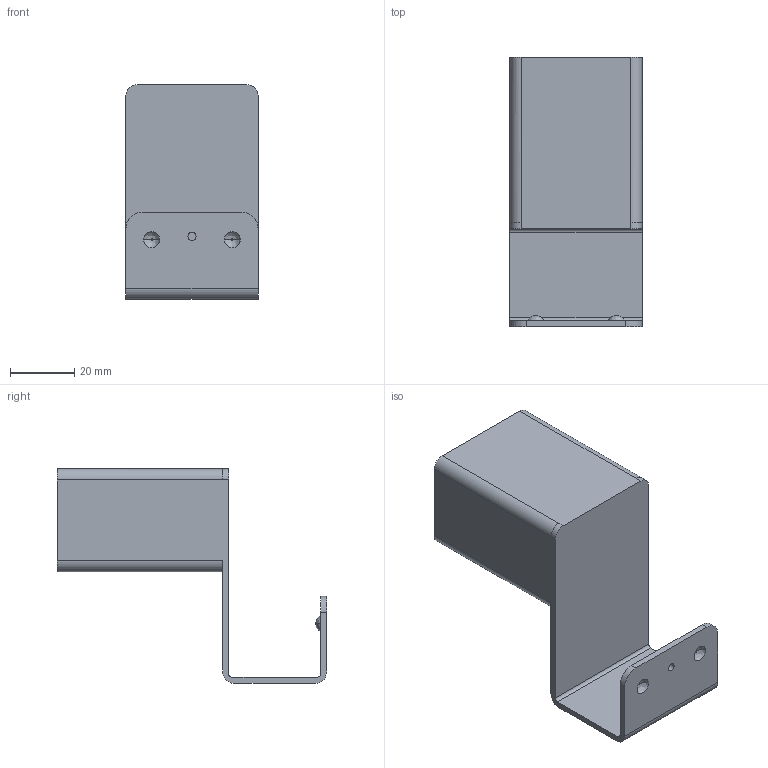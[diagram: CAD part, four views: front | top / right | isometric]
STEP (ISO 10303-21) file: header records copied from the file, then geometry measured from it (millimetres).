
FILE_DESCRIPTION((''),'2;1');
FILE_NAME('FH-2033C','2021-06-01T10:20:25',('Administrator'),(''),'CREO PARAMETRIC BY PTC INC, 2019224','CREO PARAMETRIC BY PTC INC, 2019224','');
FILE_SCHEMA(('CONFIG_CONTROL_DESIGN'));
Length unit declared in the file: millimetre
Products named in the file (1): FH-2033C
Bounding box: 41 x 83.6 x 66.6 mm (x, y, z)
Volume: 20089.6 mm3; surface area: 21499.8 mm2
Topology: 1 solids, 1 shells, 54 faces, 144 edges, 96 vertices
Faces by surface type: plane 24, cylinder 22, bspline 8
Entity records: 1974 total; most frequent: CARTESIAN_POINT 572, ORIENTED_EDGE 288, DIRECTION 286, EDGE_CURVE 144, AXIS2_PLACEMENT_3D 108, VERTEX_POINT 96, VECTOR 70, LINE 70
